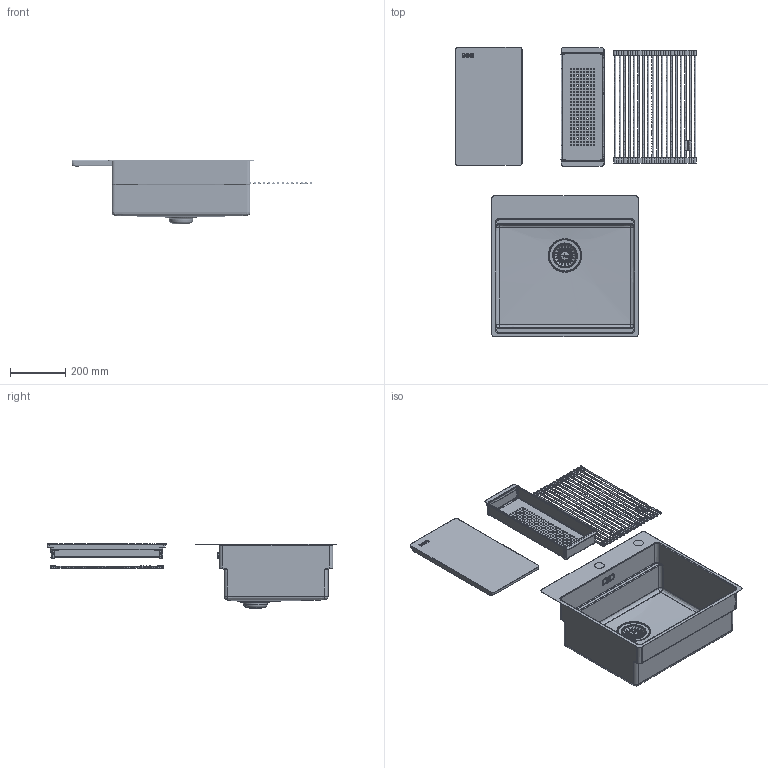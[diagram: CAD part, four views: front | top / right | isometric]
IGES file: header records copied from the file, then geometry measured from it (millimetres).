
Global section: file name: F:\_CONVERSIONE_CAD_2024_2025\PACCHETTI_2026\NUOVI_PACCHETTI_LUGLIO\PRIORITY_1\3D001_Sinks_Box-Pro_BXX-PRO-210-50-TL\3D001_Sinks_Box-Pro_BXX-PRO-210-50-TL.igs; native system: Rhinoceros ( May  6 2026 ); preprocessor: Trout Lake IGES 012 May  6 2026; date: 260701.154115; units: millimetre
Bounding box: 870.31 x 1047.9 x 234.72 mm (x, y, z)
Surface area: 2052341.1 mm2 (no closed solid volume)
Topology: 0 solids, 0 shells, 5419 faces, 32565 edges, 32306 vertices
Faces by surface type: bspline 5419
